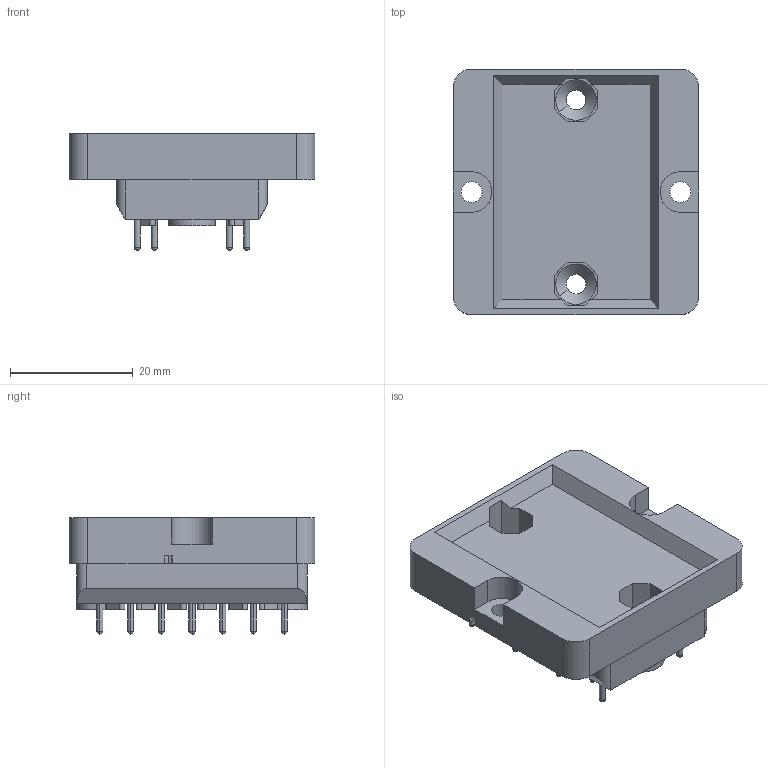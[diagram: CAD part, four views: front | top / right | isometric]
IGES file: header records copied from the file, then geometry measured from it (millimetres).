
Global section: file name: No Iges File Name specified; native system: Autodesk Inventor 2009; preprocessor: AutoDesk Inventor Iges Exporter R2009; author: Niriawan; date: 20080819.113902; units: millimetre
Bounding box: 40 x 40 x 19 mm (x, y, z)
Volume: 13365 mm3; surface area: 7169 mm2
Topology: 1 solids, 1 shells, 252 faces, 664 edges, 420 vertices
Faces by surface type: plane 116, cylinder 68, revolution 40, sphere 28
